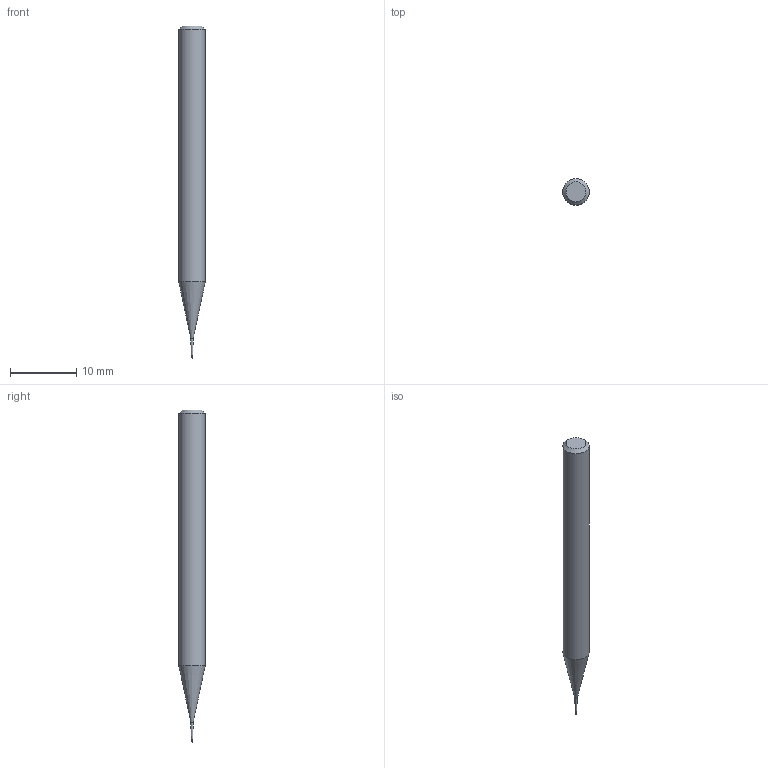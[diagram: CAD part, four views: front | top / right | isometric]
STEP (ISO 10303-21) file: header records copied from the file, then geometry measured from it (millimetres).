
FILE_DESCRIPTION((''),'2;1');
FILE_NAME('C:\Users\nsx150\AppData\Local\Temp\Mastercam 2021\SNAKH10GOD\TEMP.step','2021-10-21T13:30:40',(''),(''),'STEP Write','Mastercam 2021 ... CNC Software, Inc.','');
FILE_SCHEMA(('AUTOMOTIVE_DESIGN'));
Length unit declared in the file: millimetre
Products named in the file (1): None
Bounding box: 4 x 4 x 50 mm (x, y, z)
Volume: 521.7 mm3; surface area: 554.7 mm2
Topology: 2 solids, 2 shells, 10 faces, 16 edges, 9 vertices
Faces by surface type: plane 3, cylinder 3, cone 3, sphere 1
Full cylindrical faces by diameter (mm): 0.195 x1, 0.2 x1, 4 x1
Entity records: 232 total; most frequent: DIRECTION 40, CARTESIAN_POINT 28, AXIS2_PLACEMENT_3D 20, ORIENTED_EDGE 16, EDGE_LOOP 16, STYLED_ITEM 13, ADVANCED_FACE 10, FACE_BOUND 9
